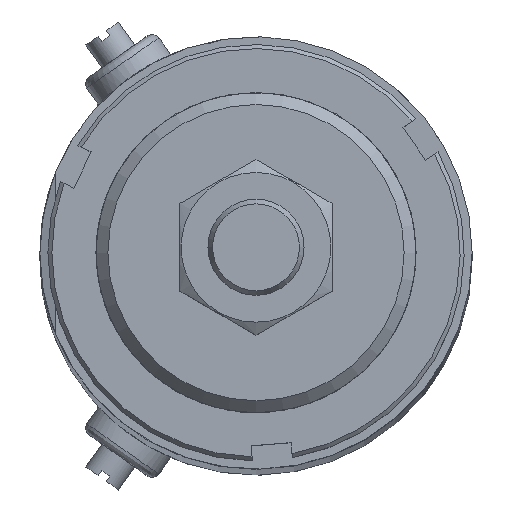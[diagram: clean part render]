
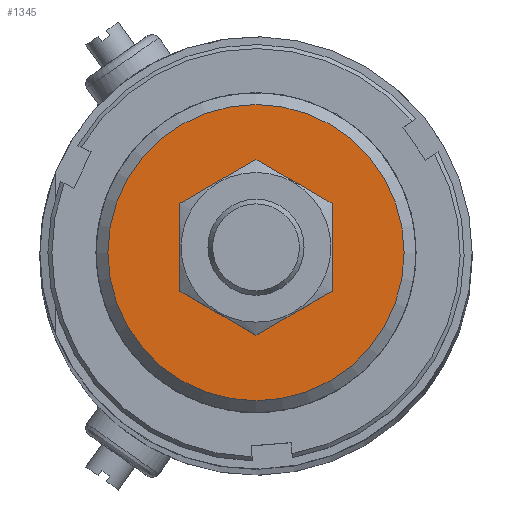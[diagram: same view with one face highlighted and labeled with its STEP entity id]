
A CAD part, top view. The second image highlights one B-rep face of the part: STEP entity #1345.
In plain terms, the highlighted planar face has unit normal (0, 0, 1) as drawn and (-1, 0, 0) by its records, which use the part's own axes.
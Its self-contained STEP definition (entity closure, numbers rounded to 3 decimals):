
#256=PLANE('',#1477);
#317=FACE_BOUND('',#484,.T.);
#318=FACE_BOUND('',#485,.T.);
#484=EDGE_LOOP('',(#1027));
#485=EDGE_LOOP('',(#1028));
#590=CIRCLE('',#1449,7.);
#602=CIRCLE('',#1476,18.5);
#668=VERTEX_POINT('',#2118);
#683=VERTEX_POINT('',#2164);
#801=EDGE_CURVE('',#668,#668,#590,.T.);
#818=EDGE_CURVE('',#683,#683,#602,.T.);
#1027=ORIENTED_EDGE('',*,*,#801,.T.);
#1028=ORIENTED_EDGE('',*,*,#818,.T.);
#1345=ADVANCED_FACE('',(#317,#318),#256,.T.);
#1449=AXIS2_PLACEMENT_3D('',#2119,#1667,#1668);
#1476=AXIS2_PLACEMENT_3D('',#2165,#1725,#1726);
#1477=AXIS2_PLACEMENT_3D('',#2166,#1727,#1728);
#1667=DIRECTION('center_axis',(1.,0.,0.));
#1668=DIRECTION('ref_axis',(0.,-1.,0.));
#1725=DIRECTION('center_axis',(-1.,0.,0.));
#1726=DIRECTION('ref_axis',(0.,0.,1.));
#1727=DIRECTION('center_axis',(-1.,0.,0.));
#1728=DIRECTION('ref_axis',(0.,0.,1.));
#2118=CARTESIAN_POINT('',(-45.,-7.,0.));
#2119=CARTESIAN_POINT('Origin',(-45.,0.,0.));
#2164=CARTESIAN_POINT('',(-45.,0.,18.5));
#2165=CARTESIAN_POINT('Origin',(-45.,0.,0.));
#2166=CARTESIAN_POINT('Origin',(-45.,0.,0.));
